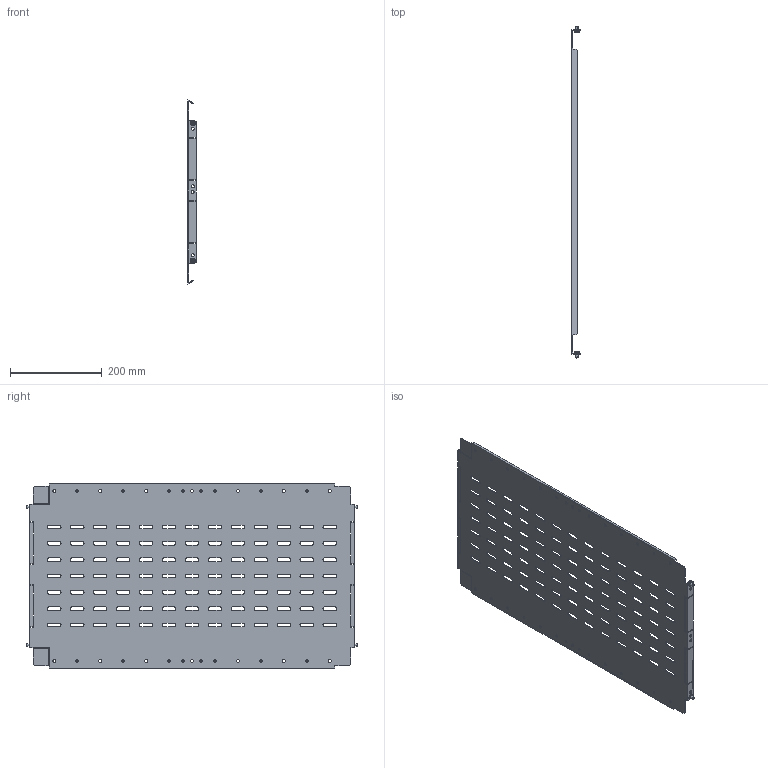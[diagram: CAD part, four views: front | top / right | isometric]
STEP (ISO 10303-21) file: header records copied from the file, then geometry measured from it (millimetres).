
FILE_DESCRIPTION (( 'STEP AP214' ), '1' );
FILE_NAME ('FO-00-SWV-040-080 Ïåðåãîðîäêà ñåêöèîíèðîâàíèÿ âåðòèêàëüíàÿ 400õ800 ìì.STEP', '2025-09-18T14:08:55', ( '' ), ( '' ), 'SwSTEP 2.0', 'SolidWorks 2023', '' );
FILE_SCHEMA (( 'AUTOMOTIVE_DESIGN' ));
Length unit declared in the file: millimetre
Products named in the file (1): FO-00-SWV-040-080 Перегородка секционирования вертикальная 400х800 мм
Bounding box: 17.5 x 721.9 x 400.39 mm (x, y, z)
Volume: 423984 mm3; surface area: 579460.5 mm2
Topology: 1 solids, 1 shells, 754 faces, 2224 edges, 1472 vertices
Faces by surface type: plane 380, cylinder 342, cone 16, torus 16
Entity records: 25919 total; most frequent: DIRECTION 4466, CARTESIAN_POINT 4451, ORIENTED_EDGE 4448, EDGE_CURVE 2224, VECTOR 1492, LINE 1492, AXIS2_PLACEMENT_3D 1487, VERTEX_POINT 1472
